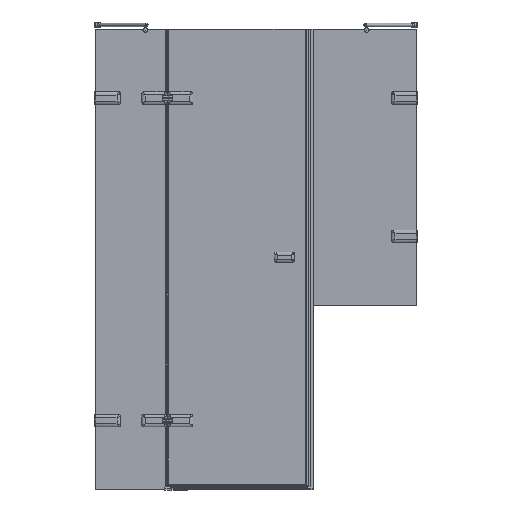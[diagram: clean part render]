
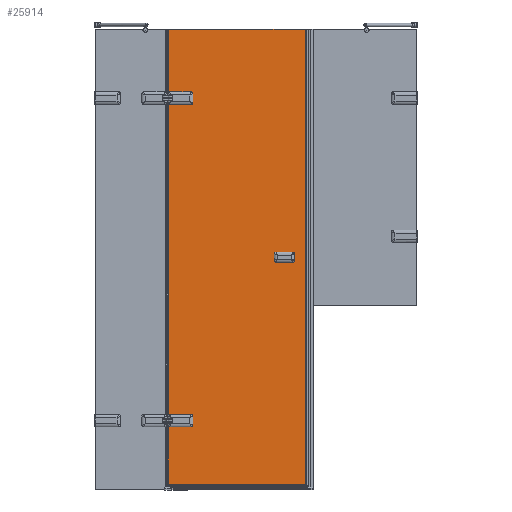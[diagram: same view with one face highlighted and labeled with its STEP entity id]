
A CAD part, front view. The second image highlights one B-rep face of the part: STEP entity #25914.
In plain terms, the highlighted planar face has unit normal (0, -1, 0).
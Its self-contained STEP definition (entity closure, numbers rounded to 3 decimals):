
#967=LINE($,#53912,#3167);
#971=LINE($,#53924,#3171);
#975=LINE($,#53935,#3175);
#1673=LINE($,#57222,#3873);
#1677=LINE($,#57234,#3877);
#1681=LINE($,#57245,#3881);
#1900=LINE($,#59779,#4100);
#1914=LINE($,#59821,#4114);
#1915=LINE($,#59823,#4115);
#1916=LINE($,#59825,#4116);
#1917=LINE($,#59826,#4117);
#1918=LINE($,#59827,#4118);
#3167=VECTOR($,#30715,96.);
#3171=VECTOR($,#30727,42.);
#3175=VECTOR($,#30739,96.);
#3873=VECTOR($,#32691,96.);
#3877=VECTOR($,#32703,42.);
#3881=VECTOR($,#32715,96.);
#4100=VECTOR($,#33646,277.43);
#4114=VECTOR($,#33696,252.83);
#4115=VECTOR($,#33697,598.747);
#4116=VECTOR($,#33698,1975.4);
#4117=VECTOR($,#33699,598.747);
#4118=VECTOR($,#33700,1354.861);
#6706=FACE_OUTER_BOUND($,#8309,.T.);
#8309=EDGE_LOOP($,(#20739,#20740,#20741,#20742,#20743,#20744,#20745,#20746,
#20747,#20748,#20749,#20750,#20751,#20752,#20753,#20754,#20755,#20756,#20757,
#20758));
#9074=CIRCLE($,#26989,5.);
#9075=CIRCLE($,#26991,5.);
#9113=CIRCLE($,#27068,5.);
#9115=CIRCLE($,#27072,5.);
#9315=CIRCLE($,#27626,5.);
#9316=CIRCLE($,#27628,5.);
#9353=CIRCLE($,#27703,5.);
#9355=CIRCLE($,#27707,5.);
#10369=VERTEX_POINT($,#53568);
#10371=VERTEX_POINT($,#53579);
#10373=VERTEX_POINT($,#53584);
#10374=VERTEX_POINT($,#53593);
#10487=VERTEX_POINT($,#53911);
#10489=VERTEX_POINT($,#53917);
#10491=VERTEX_POINT($,#53923);
#10493=VERTEX_POINT($,#53929);
#11041=VERTEX_POINT($,#56888);
#11043=VERTEX_POINT($,#56899);
#11045=VERTEX_POINT($,#56904);
#11046=VERTEX_POINT($,#56913);
#11156=VERTEX_POINT($,#57221);
#11158=VERTEX_POINT($,#57227);
#11160=VERTEX_POINT($,#57233);
#11162=VERTEX_POINT($,#57239);
#11410=VERTEX_POINT($,#59778);
#11420=VERTEX_POINT($,#59820);
#11421=VERTEX_POINT($,#59822);
#11422=VERTEX_POINT($,#59824);
#12948=EDGE_CURVE($,#10371,#10369,#9074,.T.);
#12950=EDGE_CURVE($,#10373,#10374,#9075,.T.);
#13109=EDGE_CURVE($,#10374,#10487,#967,.T.);
#13112=EDGE_CURVE($,#10487,#10489,#9113,.T.);
#13115=EDGE_CURVE($,#10489,#10491,#971,.T.);
#13118=EDGE_CURVE($,#10491,#10493,#9115,.T.);
#13121=EDGE_CURVE($,#10493,#10371,#975,.T.);
#14012=EDGE_CURVE($,#11043,#11041,#9315,.T.);
#14014=EDGE_CURVE($,#11045,#11046,#9316,.T.);
#14167=EDGE_CURVE($,#11046,#11156,#1673,.T.);
#14170=EDGE_CURVE($,#11156,#11158,#9353,.T.);
#14173=EDGE_CURVE($,#11158,#11160,#1677,.T.);
#14176=EDGE_CURVE($,#11160,#11162,#9355,.T.);
#14179=EDGE_CURVE($,#11162,#11043,#1681,.T.);
#14601=EDGE_CURVE($,#11041,#11410,#1900,.T.);
#14622=EDGE_CURVE($,#11420,#10373,#1914,.T.);
#14623=EDGE_CURVE($,#11421,#11420,#1915,.T.);
#14624=EDGE_CURVE($,#11421,#11422,#1916,.T.);
#14625=EDGE_CURVE($,#11422,#11410,#1917,.T.);
#14626=EDGE_CURVE($,#10369,#11045,#1918,.T.);
#20739=ORIENTED_EDGE($,*,*,#12948,.F.);
#20740=ORIENTED_EDGE($,*,*,#13121,.F.);
#20741=ORIENTED_EDGE($,*,*,#13118,.F.);
#20742=ORIENTED_EDGE($,*,*,#13115,.F.);
#20743=ORIENTED_EDGE($,*,*,#13112,.F.);
#20744=ORIENTED_EDGE($,*,*,#13109,.F.);
#20745=ORIENTED_EDGE($,*,*,#12950,.F.);
#20746=ORIENTED_EDGE($,*,*,#14622,.F.);
#20747=ORIENTED_EDGE($,*,*,#14623,.F.);
#20748=ORIENTED_EDGE($,*,*,#14624,.T.);
#20749=ORIENTED_EDGE($,*,*,#14625,.T.);
#20750=ORIENTED_EDGE($,*,*,#14601,.F.);
#20751=ORIENTED_EDGE($,*,*,#14012,.F.);
#20752=ORIENTED_EDGE($,*,*,#14179,.F.);
#20753=ORIENTED_EDGE($,*,*,#14176,.F.);
#20754=ORIENTED_EDGE($,*,*,#14173,.F.);
#20755=ORIENTED_EDGE($,*,*,#14170,.F.);
#20756=ORIENTED_EDGE($,*,*,#14167,.F.);
#20757=ORIENTED_EDGE($,*,*,#14014,.F.);
#20758=ORIENTED_EDGE($,*,*,#14626,.F.);
#23229=PLANE($,#28083);
#25914=ADVANCED_FACE($,(#6706),#23229,.F.);
#26989=AXIS2_PLACEMENT_3D($,#53581,#30442,#30443);
#26991=AXIS2_PLACEMENT_3D($,#53594,#30446,#30447);
#27068=AXIS2_PLACEMENT_3D($,#53918,#30720,#30721);
#27072=AXIS2_PLACEMENT_3D($,#53930,#30732,#30733);
#27626=AXIS2_PLACEMENT_3D($,#56901,#32427,#32428);
#27628=AXIS2_PLACEMENT_3D($,#56914,#32431,#32432);
#27703=AXIS2_PLACEMENT_3D($,#57228,#32696,#32697);
#27707=AXIS2_PLACEMENT_3D($,#57240,#32708,#32709);
#28083=AXIS2_PLACEMENT_3D($,#59819,#33694,#33695);
#30442=DIRECTION('center_axis',(0.,-1.,0.));
#30443=DIRECTION('ref_axis',(1.,0.,0.));
#30446=DIRECTION('center_axis',(0.,-1.,0.));
#30447=DIRECTION('ref_axis',(0.,0.,
1.));
#30715=DIRECTION($,(1.,0.,0.));
#30720=DIRECTION('center_axis',(0.,-1.,0.));
#30721=DIRECTION('ref_axis',(-1.,0.,0.));
#30727=DIRECTION($,(0.,0.,1.));
#30732=DIRECTION('center_axis',(0.,-1.,0.));
#30733=DIRECTION('ref_axis',(0.,0.,
-1.));
#30739=DIRECTION($,(-1.,0.,0.));
#32427=DIRECTION('center_axis',(0.,-1.,0.));
#32428=DIRECTION('ref_axis',(1.,0.,0.));
#32431=DIRECTION('center_axis',(0.,-1.,0.));
#32432=DIRECTION('ref_axis',(0.,0.,
1.));
#32691=DIRECTION($,(1.,0.,0.));
#32696=DIRECTION('center_axis',(0.,-1.,0.));
#32697=DIRECTION('ref_axis',(-1.,0.,0.));
#32703=DIRECTION($,(0.,0.,1.));
#32708=DIRECTION('center_axis',(0.,-1.,0.));
#32709=DIRECTION('ref_axis',(0.,0.,
-1.));
#32715=DIRECTION($,(-1.,0.,0.));
#33646=DIRECTION($,(0.,0.,1.));
#33694=DIRECTION('center_axis',(0.,1.,0.));
#33695=DIRECTION('ref_axis',(-1.,0.,0.));
#33696=DIRECTION($,(0.,0.,1.));
#33697=DIRECTION($,(-1.,0.,0.));
#33698=DIRECTION($,(0.,0.,1.));
#33699=DIRECTION($,(-1.,0.,0.));
#33700=DIRECTION($,(0.,0.,1.));
#53568=CARTESIAN_POINT('',(2168.605,-54.044,-191.486));
#53579=CARTESIAN_POINT('',(2173.352,-54.044,-188.056));
#53581=CARTESIAN_POINT('Origin',(2173.352,-54.044,-193.056));
#53584=CARTESIAN_POINT('',(2168.605,-54.044,-236.625));
#53593=CARTESIAN_POINT('',(2173.352,-54.044,-240.056));
#53594=CARTESIAN_POINT('Origin',(2173.352,-54.044,-235.056));
#53911=CARTESIAN_POINT('',(2269.352,-54.044,-240.056));
#53912=CARTESIAN_POINT($,(2518.352,-54.044,-240.056));
#53917=CARTESIAN_POINT('',(2274.352,-54.044,-235.056));
#53918=CARTESIAN_POINT('Origin',(2269.352,-54.044,-235.056));
#53923=CARTESIAN_POINT('',(2274.352,-54.044,-193.056));
#53924=CARTESIAN_POINT($,(2274.352,-54.044,-343.556));
#53929=CARTESIAN_POINT('',(2269.352,-54.044,-188.056));
#53930=CARTESIAN_POINT('Origin',(2269.352,-54.044,-193.056));
#53935=CARTESIAN_POINT($,(2470.352,-54.044,-188.056));
#56888=CARTESIAN_POINT('',(2168.605,-54.044,1208.514));
#56899=CARTESIAN_POINT('',(2173.352,-54.044,1211.944));
#56901=CARTESIAN_POINT('Origin',(2173.352,-54.044,1206.944));
#56904=CARTESIAN_POINT('',(2168.605,-54.044,1163.375));
#56913=CARTESIAN_POINT('',(2173.352,-54.044,1159.944));
#56914=CARTESIAN_POINT('Origin',(2173.352,-54.044,1164.944));
#57221=CARTESIAN_POINT('',(2269.352,-54.044,1159.944));
#57222=CARTESIAN_POINT($,(2518.352,-54.044,1159.944));
#57227=CARTESIAN_POINT('',(2274.352,-54.044,1164.944));
#57228=CARTESIAN_POINT('Origin',(2269.352,-54.044,1164.944));
#57233=CARTESIAN_POINT('',(2274.352,-54.044,1206.944));
#57234=CARTESIAN_POINT($,(2274.352,-54.044,356.444));
#57239=CARTESIAN_POINT('',(2269.352,-54.044,1211.944));
#57240=CARTESIAN_POINT('Origin',(2269.352,-54.044,1206.944));
#57245=CARTESIAN_POINT($,(2470.352,-54.044,1211.944));
#59778=CARTESIAN_POINT('',(2168.605,-54.044,1485.944));
#59779=CARTESIAN_POINT($,(2168.605,-54.044,1195.944));
#59819=CARTESIAN_POINT('Origin',(2767.352,-54.044,-494.056));
#59820=CARTESIAN_POINT('',(2168.605,-54.044,-489.456));
#59821=CARTESIAN_POINT($,(2168.605,-54.044,-224.056));
#59822=CARTESIAN_POINT('',(2767.352,-54.044,-489.456));
#59823=CARTESIAN_POINT($,(2777.352,-54.044,-489.456));
#59824=CARTESIAN_POINT('',(2767.352,-54.044,1485.944));
#59825=CARTESIAN_POINT($,(2767.352,-54.044,-494.056));
#59826=CARTESIAN_POINT($,(2767.352,-54.044,1485.944));
#59827=CARTESIAN_POINT($,(2168.605,-54.044,-204.056));
